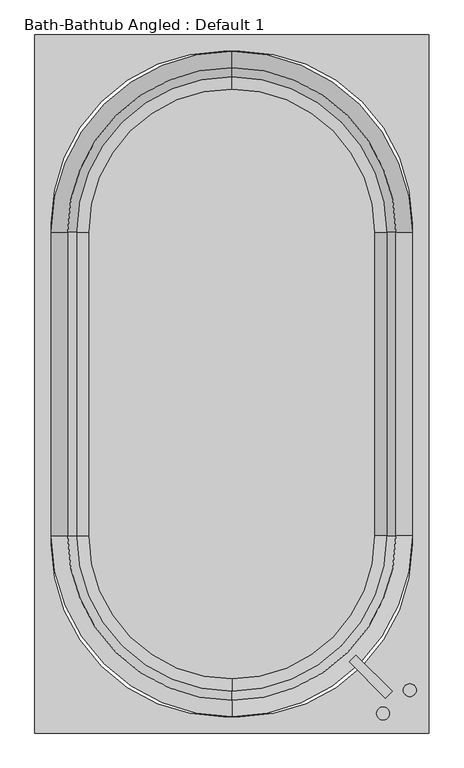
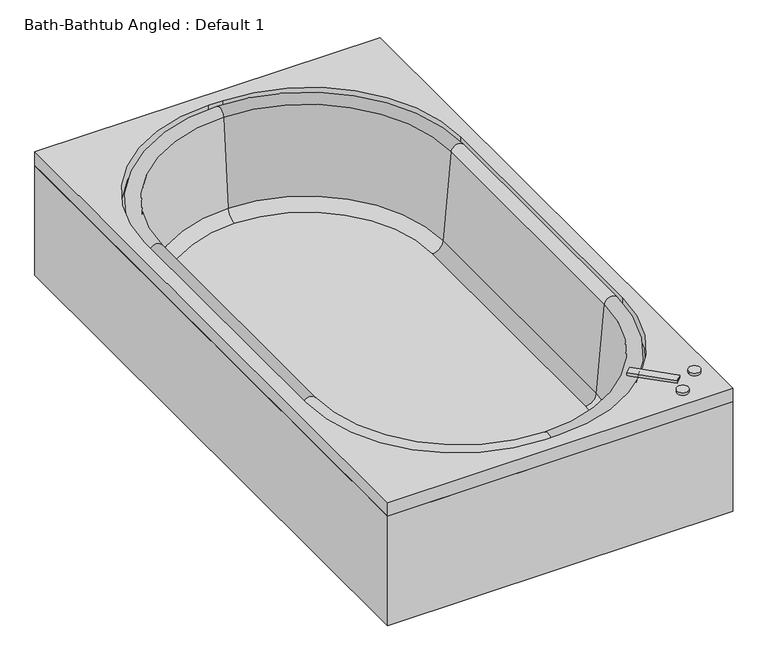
"""IFC4 building model written with IfcOpenShell, lengths in millimetres: flow terminal geometry, Bath-Bathtub Angled : Default 1."""

from ifc_helpers import new_model, si_unit, point, frame, frame_2d, origin, origin_with_axes, place, context, project, spatial, polyline, circle_curve, ellipse_curve, trimmed, segment, composite_curve, outline, extrude, source, transform, mapped, element, save
from ifc_brep_helpers import plane_surface, cylinder_surface, revolved_surface, advanced_brep


def bath_bathtub_angled_default_1_9777f4e5(model_context):
    return source(origin(), model_context, "Body", "SolidModel", [
        advanced_brep(
        [(0.0, -901.7, 0.0), (431.8, -469.9, 0.0), (442.0824236, -469.9, 0.0), (0.0, -911.9824236, 0.0), (-442.0824236, -469.9, 0.0), (-431.8, -469.9, 0.0), (0.0, -901.7, 66.3), (431.8, -469.9, 66.3), (442.0824236, -469.9, 66.3), (442.0824236, -469.9, 65.9536107), (0.0, -911.9824236, 65.9536107), (-442.0824236, -469.9, 65.9536107), (-442.0824236, -469.9, 66.3), (-431.8, -469.9, 66.3), (-442.0824236, 469.9, 81.38125), (-442.0824236, -469.9, 81.38125), (0.0, -911.9824236, 81.38125), (442.0824236, -469.9, 81.38125), (442.0824236, 469.9, 81.38125), (0.0, 911.9824236, 81.38125), (-442.0824236, 469.9, 66.3), (0.0, 911.9824236, 66.3), (442.0824236, 469.9, 66.3), (0.0, 911.9824236, 80.8774627), (-442.0824236, 469.9, 80.8774627), (442.0824236, 469.9, 80.8774627), (442.0824236, -469.9, 80.8774627), (0.0, -911.9824236, 80.8774627), (-442.0824236, -469.9, 80.8774627), (0.0, 990.6, 409.2), (0.0, 1003.3, 409.2), (533.4, 469.9, 409.2), (520.7, 469.9, 409.2), (494.9045038, 469.9, 114.3561295), (0.0, 964.8045038, 114.3561295), (442.0824236, 469.9, 65.9536107), (0.0, 911.9824236, 65.9536107), (0.0, 949.9374416, 115.6568289), (480.0374416, 469.9, 115.6568289), (508.2561556, 469.9, 438.1982063), (0.0, 978.1561556, 438.1982063), (-520.7, 469.9, 409.2), (-533.4, 469.9, 409.2), (-494.9045038, 469.9, 114.3561295), (-442.0824236, 469.9, 65.9536107), (-480.0374416, 469.9, 115.6568289), (-508.2561556, 469.9, 438.1982063), (-520.7, -469.9, 409.2), (-533.4, -469.9, 409.2), (-494.9045038, -469.9, 114.3561295), (-480.0374416, -469.9, 115.6568289), (-508.2561556, -469.9, 438.1982063), (0.0, -990.6, 409.2), (0.0, -1003.3, 409.2), (0.0, -964.8045038, 114.3561295), (0.0, -949.9374416, 115.6568289), (0.0, -978.1561556, 438.1982063), (520.7, -469.9, 409.2), (533.4, -469.9, 409.2), (494.9045038, -469.9, 114.3561295), (480.0374416, -469.9, 115.6568289), (508.2561556, -469.9, 438.1982063)],
        [
            (0, 1, circle_curve(frame((0.0, -469.9, 0.0), z_axis=(0.0, 0.0, 1.0), x_axis=(1.0, 0.0, 0.0)), 431.8)),
            (1, 2),
            (2, 3, circle_curve(frame((0.0, -469.9, 0.0), z_axis=(0.0, 0.0, -1.0), x_axis=(1.0, 0.0, 0.0)), 442.0824236)),
            (3, 4, circle_curve(frame((0.0, -469.9, 0.0), z_axis=(0.0, 0.0, -1.0), x_axis=(1.0, 0.0, 0.0)), 442.0824236)),
            (4, 5),
            (5, 0, circle_curve(frame((0.0, -469.9, 0.0), z_axis=(0.0, 0.0, 1.0), x_axis=(1.0, 0.0, 0.0)), 431.8)),
            (0, 6),
            (6, 7, circle_curve(frame((0.0, -469.9, 66.3), z_axis=(0.0, 0.0, 1.0), x_axis=(1.0, 0.0, 0.0)), 431.8)),
            (7, 1),
            (7, 8),
            (8, 9),
            (9, 2),
            (9, 10, circle_curve(frame((0.0, -469.9, 65.9536107), z_axis=(0.0, 0.0, -1.0), x_axis=(1.0, 0.0, 0.0)), 442.0824236)),
            (10, 3),
            (10, 11, circle_curve(frame((0.0, -469.9, 65.9536107), z_axis=(0.0, 0.0, -1.0), x_axis=(1.0, 0.0, 0.0)), 442.0824236)),
            (11, 4),
            (11, 12),
            (12, 13),
            (13, 5),
            (13, 6, circle_curve(frame((0.0, -469.9, 66.3), z_axis=(0.0, 0.0, 1.0), x_axis=(1.0, 0.0, 0.0)), 431.8)),
            (14, 15),
            (15, 16, circle_curve(frame((0.0, -469.9, 81.38125), z_axis=(0.0, 0.0, 1.0), x_axis=(0.0, 1.0, 0.0)), 442.0824236)),
            (16, 17, circle_curve(frame((0.0, -469.9, 81.38125), z_axis=(0.0, 0.0, 1.0), x_axis=(0.0, 1.0, 0.0)), 442.0824236)),
            (17, 18),
            (18, 19, circle_curve(frame((0.0, 469.9, 81.38125), z_axis=(0.0, 0.0, 1.0), x_axis=(0.0, 1.0, 0.0)), 442.0824236)),
            (19, 14, circle_curve(frame((0.0, 469.9, 81.38125), z_axis=(0.0, 0.0, 1.0), x_axis=(0.0, 1.0, 0.0)), 442.0824236)),
            (12, 20),
            (20, 21, circle_curve(frame((0.0, 469.9, 66.3), z_axis=(0.0, 0.0, -1.0), x_axis=(0.0, 1.0, 0.0)), 442.0824236)),
            (21, 22, circle_curve(frame((0.0, 469.9, 66.3), z_axis=(0.0, 0.0, -1.0), x_axis=(1.0, 0.0, 0.0)), 442.0824236)),
            (22, 8),
            (19, 23),
            (23, 24, circle_curve(frame((0.0, 469.9, 80.8774627), z_axis=(0.0, 0.0, 1.0), x_axis=(0.0, 1.0, 0.0)), 442.0824236)),
            (24, 14),
            (18, 25),
            (25, 23, circle_curve(frame((0.0, 469.9, 80.8774627), z_axis=(0.0, 0.0, 1.0), x_axis=(0.0, 1.0, 0.0)), 442.0824236)),
            (17, 26),
            (26, 25),
            (16, 27),
            (27, 26, circle_curve(frame((0.0, -469.9, 80.8774627), z_axis=(0.0, 0.0, 1.0), x_axis=(0.0, 1.0, 0.0)), 442.0824236)),
            (15, 28),
            (28, 27, circle_curve(frame((0.0, -469.9, 80.8774627), z_axis=(0.0, 0.0, 1.0), x_axis=(0.0, 1.0, 0.0)), 442.0824236)),
            (24, 28),
            (29, 30),
            (30, 31, circle_curve(frame((0.0, 469.9, 409.2), z_axis=(0.0, 0.0, -1.0), x_axis=(1.0, 0.0, 0.0)), 533.4)),
            (31, 32),
            (32, 29, circle_curve(frame((0.0, 469.9, 409.2), z_axis=(0.0, 0.0, 1.0), x_axis=(1.0, 0.0, 0.0)), 520.7)),
            (32, 33),
            (33, 34, circle_curve(frame((0.0, 469.9, 114.3561295), z_axis=(0.0, 0.0, 1.0), x_axis=(1.0, 0.0, 0.0)), 494.9045038)),
            (34, 29),
            (33, 35, circle_curve(frame((442.0824236, 469.9, 118.9774627), z_axis=(0.0, 1.0, 0.0), x_axis=(1.0, 0.0, 0.0)), 53.023852)),
            (35, 36, circle_curve(frame((0.0, 469.9, 65.9536107), z_axis=(0.0, 0.0, 1.0), x_axis=(1.0, 0.0, 0.0)), 442.0824236)),
            (36, 34, circle_curve(frame((0.0, 911.9824236, 118.9774627), z_axis=(1.0, 0.0, 0.0), x_axis=(0.0, 1.0, 0.0)), 53.023852)),
            (35, 22),
            (21, 36),
            (37, 23, circle_curve(frame((0.0, 911.9824236, 118.9774627), z_axis=(-1.0, 0.0, 0.0), x_axis=(0.0, 1.0, 0.0)), 38.1)),
            (25, 38, circle_curve(frame((442.0824236, 469.9, 118.9774627), z_axis=(0.0, -1.0, 0.0), x_axis=(1.0, 0.0, 0.0)), 38.1)),
            (38, 37, circle_curve(frame((0.0, 469.9, 115.6568289), z_axis=(0.0, 0.0, 1.0), x_axis=(1.0, 0.0, 0.0)), 480.0374416)),
            (38, 39),
            (39, 40, circle_curve(frame((0.0, 469.9, 438.1982063), z_axis=(0.0, 0.0, 1.0), x_axis=(1.0, 0.0, 0.0)), 508.2561556)),
            (40, 37),
            (30, 40, circle_curve(frame((0.0, 1003.3, 434.6), z_axis=(1.0, 0.0, 0.0), x_axis=(0.0, 1.0, 0.0)), 25.4)),
            (39, 31, circle_curve(frame((533.4, 469.9, 434.6), z_axis=(0.0, 1.0, 0.0), x_axis=(1.0, 0.0, 0.0)), 25.4)),
            (29, 41, circle_curve(frame((0.0, 469.9, 409.2), z_axis=(0.0, 0.0, 1.0), x_axis=(0.0, 1.0, 0.0)), 520.7)),
            (41, 42),
            (42, 30, circle_curve(frame((0.0, 469.9, 409.2), z_axis=(0.0, 0.0, -1.0), x_axis=(0.0, 1.0, 0.0)), 533.4)),
            (34, 43, circle_curve(frame((0.0, 469.9, 114.3561295), z_axis=(0.0, 0.0, 1.0), x_axis=(0.0, 1.0, 0.0)), 494.9045038)),
            (43, 41),
            (36, 44, circle_curve(frame((0.0, 469.9, 65.9536107), z_axis=(0.0, 0.0, 1.0), x_axis=(0.0, 1.0, 0.0)), 442.0824236)),
            (44, 43, circle_curve(frame((-442.0824236, 469.9, 118.9774627), z_axis=(0.0, 1.0, 0.0), x_axis=(-1.0, 0.0, 0.0)), 53.023852)),
            (20, 44),
            (37, 45, circle_curve(frame((0.0, 469.9, 115.6568289), z_axis=(0.0, 0.0, 1.0), x_axis=(0.0, 1.0, 0.0)), 480.0374416)),
            (45, 24, circle_curve(frame((-442.0824236, 469.9, 118.9774627), z_axis=(0.0, -1.0, 0.0), x_axis=(-1.0, 0.0, 0.0)), 38.1)),
            (40, 46, circle_curve(frame((0.0, 469.9, 438.1982063), z_axis=(0.0, 0.0, 1.0), x_axis=(0.0, 1.0, 0.0)), 508.2561556)),
            (46, 45),
            (42, 46, circle_curve(frame((-533.4, 469.9, 434.6), z_axis=(0.0, 1.0, 0.0), x_axis=(-1.0, 0.0, 0.0)), 25.4)),
            (41, 47),
            (47, 48),
            (48, 42),
            (43, 49),
            (49, 47),
            (44, 11),
            (11, 49, circle_curve(frame((-442.0824236, -469.9, 118.9774627), z_axis=(0.0, 1.0, 0.0), x_axis=(-1.0, 0.0, 0.0)), 53.023852)),
            (45, 50),
            (50, 28, circle_curve(frame((-442.0824236, -469.9, 118.9774627), z_axis=(0.0, -1.0, 0.0), x_axis=(-1.0, 0.0, 0.0)), 38.1)),
            (46, 51),
            (51, 50),
            (48, 51, circle_curve(frame((-533.4, -469.9, 434.6), z_axis=(0.0, 1.0, 0.0), x_axis=(-1.0, 0.0, 0.0)), 25.4)),
            (47, 52, circle_curve(frame((0.0, -469.9, 409.2), z_axis=(0.0, 0.0, 1.0), x_axis=(-1.0, 0.0, 0.0)), 520.7)),
            (52, 53),
            (53, 48, circle_curve(frame((0.0, -469.9, 409.2), z_axis=(0.0, 0.0, -1.0), x_axis=(-1.0, 0.0, 0.0)), 533.4)),
            (49, 54, circle_curve(frame((0.0, -469.9, 114.3561295), z_axis=(0.0, 0.0, 1.0), x_axis=(-1.0, 0.0, 0.0)), 494.9045038)),
            (54, 52),
            (10, 54, circle_curve(frame((0.0, -911.9824236, 118.9774627), z_axis=(-1.0, 0.0, 0.0), x_axis=(0.0, -1.0, 0.0)), 53.023852)),
            (50, 55, circle_curve(frame((0.0, -469.9, 115.6568289), z_axis=(0.0, 0.0, 1.0), x_axis=(-1.0, 0.0, 0.0)), 480.0374416)),
            (55, 27, circle_curve(frame((0.0, -911.9824236, 118.9774627), z_axis=(1.0, 0.0, 0.0), x_axis=(0.0, -1.0, 0.0)), 38.1)),
            (51, 56, circle_curve(frame((0.0, -469.9, 438.1982063), z_axis=(0.0, 0.0, 1.0), x_axis=(-1.0, 0.0, 0.0)), 508.2561556)),
            (56, 55),
            (53, 56, circle_curve(frame((0.0, -1003.3, 434.6), z_axis=(-1.0, 0.0, 0.0), x_axis=(0.0, -1.0, 0.0)), 25.4)),
            (52, 57, circle_curve(frame((0.0, -469.9, 409.2), z_axis=(0.0, 0.0, 1.0), x_axis=(0.0, -1.0, 0.0)), 520.7)),
            (57, 58),
            (58, 53, circle_curve(frame((0.0, -469.9, 409.2), z_axis=(0.0, 0.0, -1.0), x_axis=(0.0, -1.0, 0.0)), 533.4)),
            (54, 59, circle_curve(frame((0.0, -469.9, 114.3561295), z_axis=(0.0, 0.0, 1.0), x_axis=(0.0, -1.0, 0.0)), 494.9045038)),
            (59, 57),
            (9, 59, circle_curve(frame((442.0824236, -469.9, 118.9774627), z_axis=(0.0, -1.0, 0.0), x_axis=(1.0, 0.0, 0.0)), 53.023852)),
            (55, 60, circle_curve(frame((0.0, -469.9, 115.6568289), z_axis=(0.0, 0.0, 1.0), x_axis=(0.0, -1.0, 0.0)), 480.0374416)),
            (60, 26, circle_curve(frame((442.0824236, -469.9, 118.9774627), z_axis=(0.0, 1.0, 0.0), x_axis=(1.0, 0.0, 0.0)), 38.1)),
            (56, 61, circle_curve(frame((0.0, -469.9, 438.1982063), z_axis=(0.0, 0.0, 1.0), x_axis=(0.0, -1.0, 0.0)), 508.2561556)),
            (61, 60),
            (58, 61, circle_curve(frame((533.4, -469.9, 434.6), z_axis=(0.0, -1.0, 0.0), x_axis=(1.0, 0.0, 0.0)), 25.4)),
            (31, 58),
            (57, 32),
            (59, 33),
            (9, 35),
            (60, 38),
            (61, 39),
        ],
        [
            plane_surface(frame((431.8, -469.9, 0.0), z_axis=(0.0, 0.0, -1.0), x_axis=(0.0, -1.0, 0.0))),
            revolved_surface(polyline([(431.8, -469.9, 0.0), (431.8, -469.9, 66.3)]), (0.0, -469.9, 0.0), (0.0, 0.0, -1.0)),
            plane_surface(frame((431.8, -469.9, 66.3), z_axis=(0.0, 1.0, 0.0), x_axis=(0.0, 0.0, -1.0))),
            cylinder_surface(frame((0.0, -469.9, 0.0), z_axis=(0.0, 0.0, 1.0), x_axis=(1.0, 0.0, 0.0)), 442.0824236),
            plane_surface(frame((-442.0824236, -469.9, 66.3), z_axis=(0.0, 1.0, 0.0), x_axis=(0.0, 0.0, -1.0))),
            plane_surface(frame((0.0, 911.9824236, 81.38125), z_axis=(0.0, 0.0, 1.0), x_axis=(1.0, 0.0, 0.0))),
            plane_surface(frame((0.0, 911.9824236, 66.3), z_axis=(0.0, 0.0, -1.0), x_axis=(-1.0, 0.0, 0.0))),
            cylinder_surface(frame((0.0, 469.9, 66.3), z_axis=(0.0, 0.0, 1.0), x_axis=(0.0, 1.0, 0.0)), 442.0824236),
            plane_surface(frame((442.0824236, 469.9, 81.38125), z_axis=(1.0, 0.0, 0.0), x_axis=(0.0, 0.0, -1.0))),
            cylinder_surface(frame((0.0, -469.9, 66.3), z_axis=(0.0, 0.0, 1.0), x_axis=(0.0, 1.0, 0.0)), 442.0824236),
            plane_surface(frame((-442.0824236, -469.9, 81.38125), z_axis=(-1.0, 0.0, 0.0), x_axis=(0.0, 0.0, -1.0))),
            plane_surface(frame((0.0, 469.9, 409.2), z_axis=(0.0, 0.0, -1.0), x_axis=(1.0, 0.0, 0.0))),
            revolved_surface(polyline([(520.7, 469.9, 409.2), (494.9045038, 469.9, 114.3561295)]), (0.0, 469.9, 434.6), (0.0, 0.0, -1.0)),
            revolved_surface(trimmed(ellipse_curve(frame((442.0824236, 469.9, 118.9774627), z_axis=(0.0, 1.0, 0.0), x_axis=(1.0, 0.0, 0.0)), 53.023852, 53.023852), [point((494.9045038, 469.9, 114.3561295))], [point((442.0824236, 469.9, 65.9536107))], True, "CARTESIAN"), (0.0, 469.9, 434.6), (0.0, 0.0, -1.0)),
            revolved_surface(polyline([(442.0824236, 469.9, 65.95361070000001), (442.0824236, 469.9, 66.30000000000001)]), (0.0, 469.9, 434.6), (0.0, 0.0, -1.0)),
            revolved_surface(trimmed(ellipse_curve(frame((442.0824236, 469.9, 118.9774627), z_axis=(0.0, -1.0, 0.0), x_axis=(1.0, 0.0, 0.0)), 38.1, 38.1), [point((442.0824236, 469.9, 80.8774627))], [point((480.0374416, 469.9, 115.6568289))], True, "CARTESIAN"), (0.0, 469.9, 434.6), (0.0, 0.0, -1.0)),
            revolved_surface(polyline([(480.0374416, 469.9, 115.6568289), (508.2561556, 469.9, 438.1982063)]), (0.0, 469.9, 434.6), (0.0, 0.0, -1.0)),
            revolved_surface(trimmed(ellipse_curve(frame((533.4, 469.9, 434.6), z_axis=(0.0, 1.0, 0.0), x_axis=(1.0, 0.0, 0.0)), 25.4, 25.4), [point((508.2561556, 469.9, 438.1982063))], [point((533.4, 469.9, 409.2))], True, "CARTESIAN"), (0.0, 469.9, 434.6), (0.0, 0.0, -1.0)),
            plane_surface(frame((0.0, 469.9, 409.2), z_axis=(0.0, 0.0, -1.0), x_axis=(0.0, 1.0, 0.0))),
            revolved_surface(polyline([(0.0, 990.6, 409.2), (0.0, 964.8045038, 114.3561295)]), (0.0, 469.9, 434.6), (0.0, 0.0, -1.0)),
            revolved_surface(trimmed(ellipse_curve(frame((0.0, 911.9824236, 118.9774627), z_axis=(-1.0, 0.0, 0.0), x_axis=(0.0, 1.0, 0.0)), 53.023852, 53.023852), [point((0.0, 964.8045038, 114.3561295))], [point((0.0, 911.9824236, 65.9536107))], True, "CARTESIAN"), (0.0, 469.9, 434.6), (0.0, 0.0, -1.0)),
            revolved_surface(polyline([(0.0, 911.9824236, 65.95361070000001), (0.0, 911.9824236, 66.30000000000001)]), (0.0, 469.9, 434.6), (0.0, 0.0, -1.0)),
            revolved_surface(trimmed(ellipse_curve(frame((0.0, 911.9824236, 118.9774627), z_axis=(1.0, 0.0, 0.0), x_axis=(0.0, 1.0, 0.0)), 38.1, 38.1), [point((0.0, 911.9824236, 80.8774627))], [point((0.0, 949.9374416, 115.6568289))], True, "CARTESIAN"), (0.0, 469.9, 434.6), (0.0, 0.0, -1.0)),
            revolved_surface(polyline([(0.0, 949.9374416, 115.6568289), (0.0, 978.1561556, 438.1982063)]), (0.0, 469.9, 434.6), (0.0, 0.0, -1.0)),
            revolved_surface(trimmed(ellipse_curve(frame((0.0, 1003.3, 434.6), z_axis=(-1.0, 0.0, 0.0), x_axis=(0.0, 1.0, 0.0)), 25.4, 25.4), [point((0.0, 978.1561556, 438.1982063))], [point((0.0, 1003.3, 409.2))], True, "CARTESIAN"), (0.0, 469.9, 434.6), (0.0, 0.0, -1.0)),
            plane_surface(frame((-533.4, 469.9, 409.2), z_axis=(0.0, 0.0, -1.0), x_axis=(0.0, -1.0, 0.0))),
            plane_surface(frame((-520.7, 469.9, 409.2), z_axis=(-0.9961946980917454, 0.0, -0.08715574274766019), x_axis=(0.0, -1.0, 0.0))),
            cylinder_surface(frame((-442.0824236, 469.9, 118.9774627), z_axis=(0.0, 1.0, 0.0), x_axis=(-1.0, 0.0, 0.0)), 53.023852),
            plane_surface(frame((-442.0824236, 469.9, 65.9536107), z_axis=(1.0, 0.0, 0.0), x_axis=(0.0, -1.0, 0.0))),
            revolved_surface(polyline([(-480.18242360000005, -469.9, 118.9774627), (-480.18242360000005, 469.9, 118.9774627)]), (-442.0824236, 469.9, 118.9774627), (0.0, -1.0, 0.0)),
            plane_surface(frame((-480.0374416, 469.9, 115.6568289), z_axis=(0.9961946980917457, 0.0, 0.0871557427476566), x_axis=(0.0, -1.0, 0.0))),
            cylinder_surface(frame((-533.4, 469.9, 434.6), z_axis=(0.0, 1.0, 0.0), x_axis=(-1.0, 0.0, 0.0)), 25.4),
            plane_surface(frame((0.0, -469.9, 409.2), z_axis=(0.0, 0.0, -1.0), x_axis=(-1.0, 0.0, 0.0))),
            revolved_surface(polyline([(-520.7, -469.9, 409.2), (-494.9045038, -469.9, 114.3561295)]), (0.0, -469.9, 434.6), (0.0, 0.0, -1.0)),
            revolved_surface(trimmed(ellipse_curve(frame((-442.0824236, -469.9, 118.9774627), z_axis=(0.0, -1.0, 0.0), x_axis=(-1.0, 0.0, 0.0)), 53.023852, 53.023852), [point((-494.9045038, -469.9, 114.3561295))], [point((-442.0824236, -469.9, 65.9536107))], True, "CARTESIAN"), (0.0, -469.9, 434.6), (0.0, 0.0, -1.0)),
            revolved_surface(trimmed(ellipse_curve(frame((-442.0824236, -469.9, 118.9774627), z_axis=(0.0, 1.0, 0.0), x_axis=(-1.0, 0.0, 0.0)), 38.1, 38.1), [point((-442.0824236, -469.9, 80.8774627))], [point((-480.0374416, -469.9, 115.6568289))], True, "CARTESIAN"), (0.0, -469.9, 434.6), (0.0, 0.0, -1.0)),
            revolved_surface(polyline([(-480.0374416, -469.9, 115.6568289), (-508.2561556, -469.9, 438.1982063)]), (0.0, -469.9, 434.6), (0.0, 0.0, -1.0)),
            revolved_surface(trimmed(ellipse_curve(frame((-533.4, -469.9, 434.6), z_axis=(0.0, -1.0, 0.0), x_axis=(-1.0, 0.0, 0.0)), 25.4, 25.4), [point((-508.2561556, -469.9, 438.1982063))], [point((-533.4, -469.9, 409.2))], True, "CARTESIAN"), (0.0, -469.9, 434.6), (0.0, 0.0, -1.0)),
            plane_surface(frame((0.0, -469.9, 409.2), z_axis=(0.0, 0.0, -1.0), x_axis=(0.0, -1.0, 0.0))),
            revolved_surface(polyline([(0.0, -990.6, 409.2), (0.0, -964.8045038, 114.3561295)]), (0.0, -469.9, 434.6), (0.0, 0.0, -1.0)),
            revolved_surface(trimmed(ellipse_curve(frame((0.0, -911.9824236, 118.9774627), z_axis=(1.0, 0.0, 0.0), x_axis=(0.0, -1.0, 0.0)), 53.023852, 53.023852), [point((0.0, -964.8045038, 114.3561295))], [point((0.0, -911.9824236, 65.9536107))], True, "CARTESIAN"), (0.0, -469.9, 434.6), (0.0, 0.0, -1.0)),
            revolved_surface(trimmed(ellipse_curve(frame((0.0, -911.9824236, 118.9774627), z_axis=(-1.0, 0.0, 0.0), x_axis=(0.0, -1.0, 0.0)), 38.1, 38.1), [point((0.0, -911.9824236, 80.8774627))], [point((0.0, -949.9374416, 115.6568289))], True, "CARTESIAN"), (0.0, -469.9, 434.6), (0.0, 0.0, -1.0)),
            revolved_surface(polyline([(0.0, -949.9374416, 115.6568289), (0.0, -978.1561556, 438.1982063)]), (0.0, -469.9, 434.6), (0.0, 0.0, -1.0)),
            revolved_surface(trimmed(ellipse_curve(frame((0.0, -1003.3, 434.6), z_axis=(1.0, 0.0, 0.0), x_axis=(0.0, -1.0, 0.0)), 25.4, 25.4), [point((0.0, -978.1561556, 438.1982063))], [point((0.0, -1003.3, 409.2))], True, "CARTESIAN"), (0.0, -469.9, 434.6), (0.0, 0.0, -1.0)),
            plane_surface(frame((533.4, -469.9, 409.2), z_axis=(0.0, 0.0, -1.0), x_axis=(0.0, 1.0, 0.0))),
            plane_surface(frame((520.7, -469.9, 409.2), z_axis=(0.9961946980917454, 0.0, -0.08715574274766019), x_axis=(0.0, 1.0, 0.0))),
            cylinder_surface(frame((442.0824236, -469.9, 118.9774627), z_axis=(0.0, -1.0, 0.0), x_axis=(1.0, 0.0, 0.0)), 53.023852),
            plane_surface(frame((442.0824236, -469.9, 65.9536107), z_axis=(-1.0, 0.0, 0.0), x_axis=(0.0, 1.0, 0.0))),
            revolved_surface(polyline([(480.18242360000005, 469.9, 118.9774627), (480.18242360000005, -469.9, 118.9774627)]), (442.0824236, -469.9, 118.9774627), (0.0, 1.0, 0.0)),
            plane_surface(frame((480.0374416, -469.9, 115.6568289), z_axis=(-0.9961946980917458, 0.0, 0.08715574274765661), x_axis=(0.0, 1.0, 0.0))),
            cylinder_surface(frame((533.4, -469.9, 434.6), z_axis=(0.0, -1.0, 0.0), x_axis=(1.0, 0.0, 0.0)), 25.4),
        ],
        [
            (0, [[1, 2, 3, 4, 5, 6]]),
            (1, [[7, 8, 9, -1]]),
            (2, [[-9, 10, 11, 12, -2]]),
            (3, [[-12, 13, 14, -3]]),
            (3, [[-14, 15, 16, -4]]),
            (4, [[-16, 17, 18, 19, -5]]),
            (1, [[-19, 20, -7, -6]]),
            (5, [[21, 22, 23, 24, 25, 26]]),
            (6, [[-20, -18, 27, 28, 29, 30, -10, -8]]),
            (7, [[31, 32, 33, -26]]),
            (7, [[34, 35, -31, -25]]),
            (8, [[36, 37, -34, -24]]),
            (9, [[38, 39, -36, -23]]),
            (9, [[40, 41, -38, -22]]),
            (10, [[-33, 42, -40, -21]]),
            (11, [[43, 44, 45, 46]]),
            (12, [[47, 48, 49, -46]]),
            (13, [[50, 51, 52, -48]]),
            (14, [[53, -29, 54, -51]]),
            (15, [[55, -35, 56, 57]]),
            (16, [[58, 59, 60, -57]]),
            (17, [[61, -59, 62, -44]]),
            (18, [[63, 64, 65, -43]]),
            (19, [[66, 67, -63, -49]]),
            (20, [[68, 69, -66, -52]]),
            (21, [[-54, -28, 70, -68]]),
            (22, [[71, 72, -32, -55]]),
            (23, [[73, 74, -71, -60]]),
            (24, [[-65, 75, -73, -61]]),
            (25, [[76, 77, 78, -64]]),
            (26, [[79, 80, -76, -67]]),
            (27, [[81, 82, -79, -69]]),
            (28, [[-70, -27, -17, -81]]),
            (29, [[83, 84, -42, -72]]),
            (30, [[85, 86, -83, -74]]),
            (31, [[-78, 87, -85, -75]]),
            (32, [[88, 89, 90, -77]]),
            (33, [[91, 92, -88, -80]]),
            (34, [[-15, 93, -91, -82]]),
            (35, [[94, 95, -41, -84]]),
            (36, [[96, 97, -94, -86]]),
            (37, [[-90, 98, -96, -87]]),
            (38, [[99, 100, 101, -89]]),
            (39, [[102, 103, -99, -92]]),
            (40, [[-13, 104, -102, -93]]),
            (41, [[105, 106, -39, -95]]),
            (42, [[107, 108, -105, -97]]),
            (43, [[-101, 109, -107, -98]]),
            (44, [[110, -100, 111, -45]]),
            (45, [[-111, -103, 112, -47]]),
            (46, [[-112, -104, 113, -50]]),
            (47, [[-11, -30, -53, -113]]),
            (48, [[-37, -106, 114, -56]]),
            (49, [[-114, -108, 115, -58]]),
            (50, [[-115, -109, -110, -62]]),
        ],
    ),
        extrude(outline(composite_curve([segment(trimmed(circle_curve(frame_2d((0.0, 469.9)), 442.0824236), [point((0.0, 911.9824236))], [point((442.0824236, 469.9))], False, "CARTESIAN"), True, "CONTINUOUS"), segment(polyline([(442.0824236, 469.9), (431.8, 469.9)]), True, "CONTINUOUS"), segment(trimmed(circle_curve(frame_2d((0.0, 469.9)), 431.8), [point((431.8, 469.9))], [point((0.0, 901.7))], True, "CARTESIAN"), True, "CONTINUOUS"), segment(trimmed(circle_curve(frame_2d((0.0, 469.9)), 431.8), [point((0.0, 901.7))], [point((-431.8, 469.9))], True, "CARTESIAN"), True, "CONTINUOUS"), segment(polyline([(-431.8, 469.9), (-442.0824236, 469.9)]), True, "CONTINUOUS"), segment(trimmed(circle_curve(frame_2d((0.0, 469.9)), 442.0824236), [point((-442.0824236, 469.9))], [point((0.0, 911.9824236))], False, "CARTESIAN"), True, "CONTINUOUS")], self_intersect=False)), origin_with_axes(), (0.0, 0.0, 1.0), 66.3),
        extrude(outline(polyline([(-609.6, -1079.5), (-609.6, 1079.5), (609.6, 1079.5), (609.6, -1079.5), (-609.6, -1079.5)]), holes=[polyline([(-603.25, 1073.15), (-603.25, -1073.15), (603.25, -1073.15), (603.25, 1073.15), (-603.25, 1073.15)])]), origin_with_axes(), (0.0, 0.0, 1.0), 409.2),
        extrude(outline(composite_curve([segment(trimmed(circle_curve(frame_2d((468.1287885, -1018.9953065)), 20.0), [point((448.1287885, -1018.9953065))], [point((488.1287885, -1018.9953065))], False, "CARTESIAN"), True, "CONTINUOUS"), segment(trimmed(circle_curve(frame_2d((468.1287885, -1018.9953065)), 20.0), [point((488.1287885, -1018.9953065))], [point((448.1287885, -1018.9953065))], False, "CARTESIAN"), True, "CONTINUOUS")], self_intersect=False)), frame((0.0, 0.0, 460.0), z_axis=(0.0, 0.0, 1.0), x_axis=(1.0, 0.0, 0.0)), (0.0, 0.0, 1.0), 10.0),
        extrude(outline(composite_curve([segment(trimmed(circle_curve(frame_2d((551.1468423, -946.8288133)), 20.0), [point((531.1468423, -946.8288133))], [point((571.1468423, -946.8288133))], False, "CARTESIAN"), True, "CONTINUOUS"), segment(trimmed(circle_curve(frame_2d((551.1468423, -946.8288133)), 20.0), [point((571.1468423, -946.8288133))], [point((531.1468423, -946.8288133))], False, "CARTESIAN"), True, "CONTINUOUS")], self_intersect=False)), frame((0.0, 0.0, 460.0), z_axis=(0.0, 0.0, 1.0), x_axis=(1.0, 0.0, 0.0)), (0.0, 0.0, 1.0), 10.0),
        extrude(outline(polyline([(475.9691101, -972.1130054), (363.4957262, -859.6396215), (384.7089296, -838.426418), (497.1823136, -950.899802), (475.9691101, -972.1130054)])), frame((0.0, 0.0, 460.0), z_axis=(0.0, 0.0, 1.0), x_axis=(1.0, 0.0, 0.0)), (0.0, 0.0, 1.0), 10.0),
        extrude(outline(polyline([(609.6, -1079.5), (-609.6, -1079.5), (-609.6, 1079.5), (609.6, 1079.5), (609.6, -1079.5)]), holes=[composite_curve([segment(trimmed(circle_curve(frame_2d((-25.4, -495.3)), 533.4), [point((-558.8, -495.3))], [point((-25.4, -1028.7))], True, "CARTESIAN"), True, "CONTINUOUS"), segment(polyline([(-25.4, -1028.7), (25.4, -1028.7)]), True, "CONTINUOUS"), segment(trimmed(circle_curve(frame_2d((25.4, -495.3)), 533.4), [point((25.4, -1028.7))], [point((558.8, -495.3))], True, "CARTESIAN"), True, "CONTINUOUS"), segment(polyline([(558.8, -495.3), (558.8, 495.3)]), True, "CONTINUOUS"), segment(trimmed(circle_curve(frame_2d((25.4, 495.3)), 533.4), [point((558.8, 495.3))], [point((25.4, 1028.7))], True, "CARTESIAN"), True, "CONTINUOUS"), segment(polyline([(25.4, 1028.7), (-25.4, 1028.7)]), True, "CONTINUOUS"), segment(trimmed(circle_curve(frame_2d((-25.4, 495.3)), 533.4), [point((-25.4, 1028.7))], [point((-558.8, 495.3))], True, "CARTESIAN"), True, "CONTINUOUS"), segment(polyline([(-558.8, 495.3), (-558.8, -495.3)]), True, "CONTINUOUS")], self_intersect=False)]), frame((0.0, 0.0, 409.2), z_axis=(0.0, 0.0, 1.0), x_axis=(1.0, 0.0, 0.0)), (0.0, 0.0, 1.0), 50.8),
    ])


if __name__ == "__main__":
    model = new_model("IFC4")
    model_context = context("Model", 3, world=origin())
    ifc_project = project(units=[si_unit("LENGTHUNIT", "METRE", prefix="MILLI")], contexts=[model_context])
    site = spatial("IfcSite", under=ifc_project)
    building = spatial("IfcBuilding", under=site)
    placement = place(None, origin())
    bath_bathtub_angled_default_1_shape = bath_bathtub_angled_default_1_9777f4e5(model_context)
    element("IfcFlowTerminal", 1, ObjectType="Bath-Bathtub Angled : Default 1", at=placement, inside=building, context=model_context, shape_type="MappedRepresentation", body=[
        mapped(bath_bathtub_angled_default_1_shape, transform((0.0, 0.0, 0.0), x_axis=(1.0, 0.0, 0.0), y_axis=(0.0, 1.0, 0.0), z_axis=(0.0, 0.0, 1.0))),
    ])
    save(model, "model.ifc")
